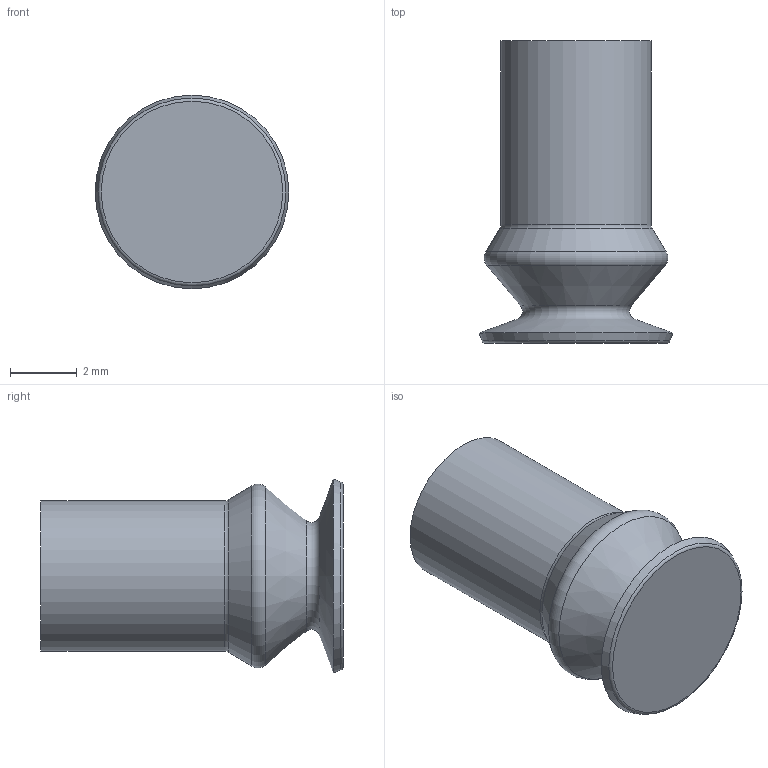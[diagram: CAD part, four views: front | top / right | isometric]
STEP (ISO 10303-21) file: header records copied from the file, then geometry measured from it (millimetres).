
FILE_DESCRIPTION(/* description */ ('','CAx-IF Rec.Pracs.---Representation and Presentation of Product Manufacturing Information (PMI)---3.8---2014-02-18'),/* implementation_level */ '2;1');
FILE_NAME(/* name */ 'C:\Users\JMolter\Desktop\Downloads\Landefeld\BC_23.005.178_Kd.stp',/* time_stamp */ '2018-11-19T09:52:47+01:00',/* author */ ('JMolter'),/* organization */ (''),/* preprocessor_version */ 'ST-DEVELOPER v16.13',/* originating_system */ 'Autodesk Inventor 2018',/* authorisation */ '');
FILE_SCHEMA (('AP242_MANAGED_MODEL_BASED_3D_ENGINEERING_MIM_LF { 1 0 10303 442 1 1 4 }'));
Length unit declared in the file: millimetre
Products named in the file (1): BC_23.005.178_Kd
Bounding box: 5.8 x 9.05 x 5.8 mm (x, y, z)
Volume: 131.9 mm3; surface area: 224.1 mm2
Topology: 1 solids, 1 shells, 15 faces, 25 edges, 14 vertices
Faces by surface type: cone 5, plane 4, torus 4, cylinder 2
Full cylindrical faces by diameter (mm): 2 x1, 4.5 x1
Entity records: 461 total; most frequent: DIRECTION 94, CARTESIAN_POINT 69, AXIS2_PLACEMENT_3D 51, EDGE_LOOP 28, ORIENTED_EDGE 28, FACE_OUTER_BOUND 15, ADVANCED_FACE 15, CIRCLE 14
